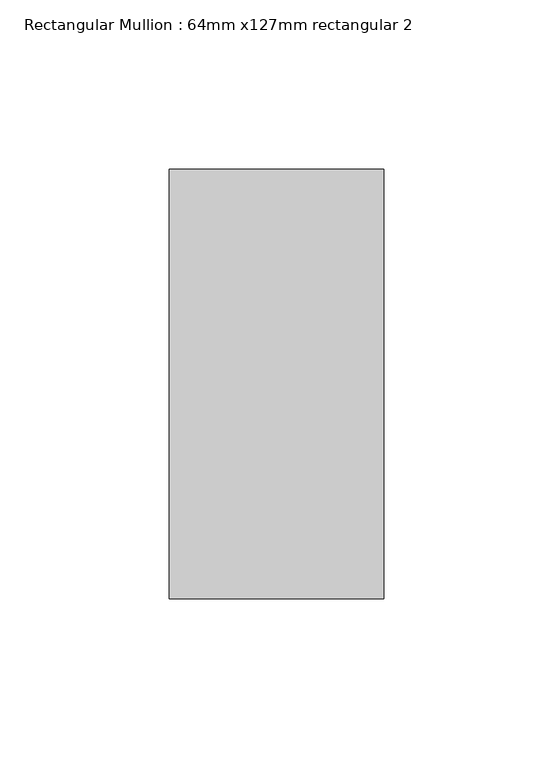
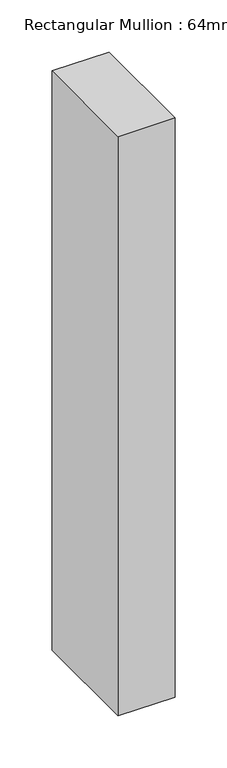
"""IFC4 building model written with IfcOpenShell, lengths in millimetres: member geometry, Rectangular Mullion : 64mm x127mm rectangular 2."""

from ifc_helpers import new_model, si_unit, frame, origin, place, context, project, spatial, polyline, outline, extrude, source, transform, mapped, element, save


def rectangular_mullion_64mm_x127mm_rectangular_2_f27d406d(model_context):
    return source(origin(), model_context, "Body", "SweptSolid", [
        extrude(outline(polyline([(31.75, 63.5), (31.75, -63.5), (-31.75, -63.5), (-31.75, 63.5), (31.75, 63.5)])), frame((0.0, 0.0, -679.45), z_axis=(0.0, 0.0, 1.0), x_axis=(1.0, 0.0, 0.0)), (0.0, 0.0, 1.0), 679.45),
    ])


if __name__ == "__main__":
    model = new_model("IFC4")
    model_context = context("Model", 3, world=origin())
    ifc_project = project(units=[si_unit("LENGTHUNIT", "METRE", prefix="MILLI")], contexts=[model_context])
    site = spatial("IfcSite", under=ifc_project)
    building = spatial("IfcBuilding", under=site)
    placement = place(None, origin())
    rectangular_mullion_64mm_x127mm_rectangular_2_shape = rectangular_mullion_64mm_x127mm_rectangular_2_f27d406d(model_context)
    element("IfcMember", 1, ObjectType="Rectangular Mullion : 64mm x127mm rectangular 2", at=placement, inside=building, context=model_context, shape_type="MappedRepresentation", body=[
        mapped(rectangular_mullion_64mm_x127mm_rectangular_2_shape, transform((0.0, 0.0, 0.0), x_axis=(1.0, 0.0, 0.0), y_axis=(0.0, 1.0, 0.0), z_axis=(0.0, 0.0, 1.0))),
    ])
    save(model, "model.ifc")
